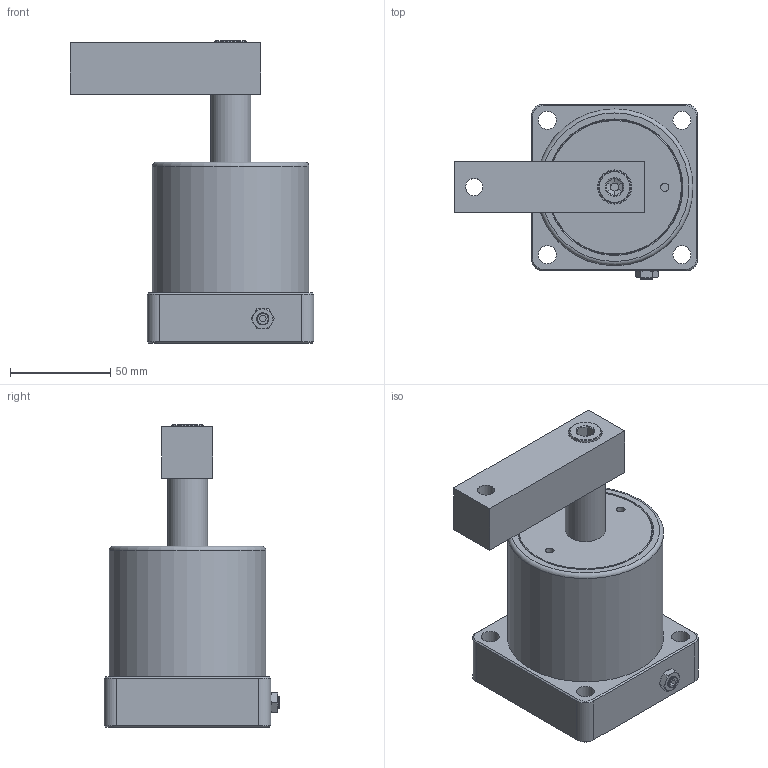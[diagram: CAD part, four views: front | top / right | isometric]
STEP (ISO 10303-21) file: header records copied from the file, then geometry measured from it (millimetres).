
FILE_DESCRIPTION(/* description */ ('Unknown'),/* implementation_level */ '2;1');
FILE_NAME(/* name */ 'ASC-MF63S-A',/* time_stamp */ '2019-05-20T10:40:50+08:00',/* author */ ('Unknown'),/* organization */ ('Unknown'),/* preprocessor_version */ 'ST-DEVELOPER v16.7',/* originating_system */ 'DEX',/* authorisation */ $);
FILE_SCHEMA (('AUTOMOTIVE_DESIGN {1 0 10303 214 3 1 1}'));
Length unit declared in the file: millimetre
Products named in the file (5): ASC-MF63S-A; ASC-MF63S-CYLINDER; ASC-6302-S-AXLE CENTRE; ASC-63S-A; ASC-6302-S-THREAD
Assembly tree (4 placements, depth 2):
  ASC-MF63S-A
    ASC-MF63S-CYLINDER
    ASC-6302-S-AXLE CENTRE
    ASC-63S-A
    ASC-6302-S-THREAD
Bounding box: 121.5 x 87.5 x 150.4 mm (x, y, z)
Volume: 450535.5 mm3; surface area: 85268.2 mm2
Topology: 4 solids, 4 shells, 135 faces, 286 edges, 178 vertices
Faces by surface type: plane 62, cone 29, cylinder 26, bspline 14, torus 4
Full cylindrical faces by diameter (mm): 4.1 x2, 5 x2, 8.5 x1, 9 x4, 10 x4, 11 x1, 16 x1, 17 x1, 20 x2, 63 x2, 78 x1
Entity records: 5569 total; most frequent: CARTESIAN_POINT 2424, DIRECTION 553, ORIENTED_EDGE 486, EDGE_CURVE 243, AXIS2_PLACEMENT_3D 225, EDGE_LOOP 200, FACE_BOUND 200, VERTEX_POINT 169
